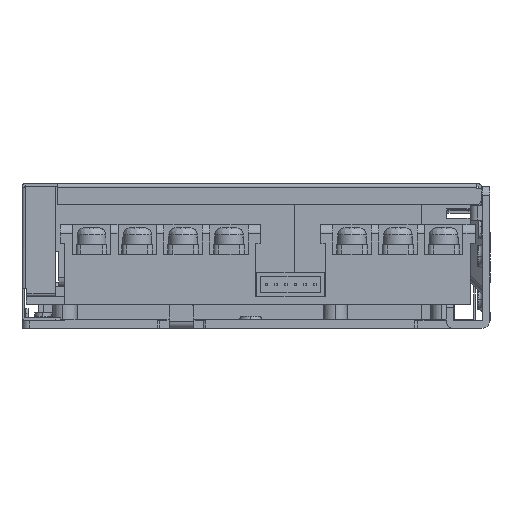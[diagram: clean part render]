
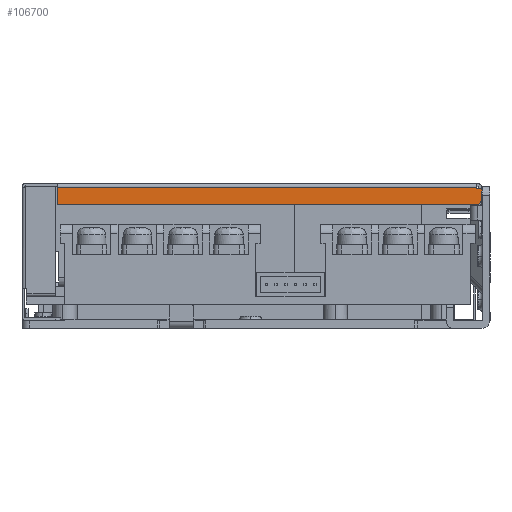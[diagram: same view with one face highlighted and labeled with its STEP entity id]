
A CAD part, left-side view. The second image highlights one B-rep face of the part: STEP entity #106700.
In plain terms, the highlighted planar face has unit normal (-1, 0, 0).
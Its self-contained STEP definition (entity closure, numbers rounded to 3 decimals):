
#45383=DIRECTION('',(0.,0.,-1.));
#45384=VECTOR('',#45383,3.6);
#45385=CARTESIAN_POINT('',(-283.334,292.725,22.5));
#45386=LINE('',#45385,#45384);
#45447=DIRECTION('',(0.,-1.,0.));
#45448=VECTOR('',#45447,86.85);
#45449=CARTESIAN_POINT('',(-283.334,292.725,22.5));
#45450=LINE('',#45449,#45448);
#45454=DIRECTION('',(0.,0.,-1.));
#45455=VECTOR('',#45454,0.4);
#45456=CARTESIAN_POINT('',(-283.334,205.875,22.5));
#45457=LINE('',#45456,#45455);
#45461=DIRECTION('',(0.,1.,0.));
#45462=VECTOR('',#45461,1.1);
#45463=CARTESIAN_POINT('',(-283.334,204.775,22.1));
#45464=LINE('',#45463,#45462);
#45468=DIRECTION('',(0.,0.,-1.));
#45469=VECTOR('',#45468,2.2);
#45470=CARTESIAN_POINT('',(-283.334,204.775,22.1));
#45471=LINE('',#45470,#45469);
#45475=CARTESIAN_POINT('',(-283.334,205.775,19.9));
#45476=DIRECTION('',(-1.,0.,0.));
#45477=DIRECTION('',(0.,0.,-1.));
#45478=AXIS2_PLACEMENT_3D('',#45475,#45476,#45477);
#45483=DIRECTION('',(0.,1.,0.));
#45484=VECTOR('',#45483,86.95);
#45485=CARTESIAN_POINT('',(-283.334,205.775,18.9));
#45486=LINE('',#45485,#45484);
#68197=CARTESIAN_POINT('',(-283.334,204.775,22.1));
#68198=CARTESIAN_POINT('',(-283.334,205.875,22.1));
#68199=VERTEX_POINT('',#68197);
#68200=VERTEX_POINT('',#68198);
#68205=CARTESIAN_POINT('',(-283.334,292.725,18.9));
#68207=VERTEX_POINT('',#68205);
#68213=CARTESIAN_POINT('',(-283.334,205.775,18.9));
#68214=VERTEX_POINT('',#68213);
#68215=CARTESIAN_POINT('',(-283.334,204.775,19.9));
#68216=VERTEX_POINT('',#68215);
#68255=CARTESIAN_POINT('',(-283.334,205.875,22.5));
#68257=VERTEX_POINT('',#68255);
#68258=CARTESIAN_POINT('',(-283.334,292.725,22.5));
#68259=VERTEX_POINT('',#68258);
#106684=CARTESIAN_POINT('',(-283.334,208.875,
22.275));
#106685=DIRECTION('',(-1.,0.,0.));
#106686=DIRECTION('',(0.,1.,0.));
#106687=AXIS2_PLACEMENT_3D('',#106684,#106685,#106686);
#106688=PLANE('',#106687);
#106689=ORIENTED_EDGE('',*,*,#106321,.T.);
#106690=ORIENTED_EDGE('',*,*,#106342,.T.);
#106692=ORIENTED_EDGE('',*,*,#106691,.F.);
#106694=ORIENTED_EDGE('',*,*,#106693,.T.);
#106695=ORIENTED_EDGE('',*,*,#106677,.F.);
#106696=ORIENTED_EDGE('',*,*,#106665,.T.);
#106697=ORIENTED_EDGE('',*,*,#106630,.F.);
#106698=EDGE_LOOP('',(#106689,#106690,#106692,#106694,#106695,#106696,#106697));
#106699=FACE_OUTER_BOUND('',#106698,.F.);
#45479=CIRCLE('',#45478,1.);
#106321=EDGE_CURVE('',#68259,#68257,#45450,.T.);
#106342=EDGE_CURVE('',#68257,#68200,#45457,.T.);
#106630=EDGE_CURVE('',#68259,#68207,#45386,.T.);
#106665=EDGE_CURVE('',#68214,#68207,#45486,.T.);
#106677=EDGE_CURVE('',#68214,#68216,#45479,.T.);
#106691=EDGE_CURVE('',#68199,#68200,#45464,.T.);
#106693=EDGE_CURVE('',#68199,#68216,#45471,.T.);
#106700=ADVANCED_FACE('',(#106699),#106688,.T.);
